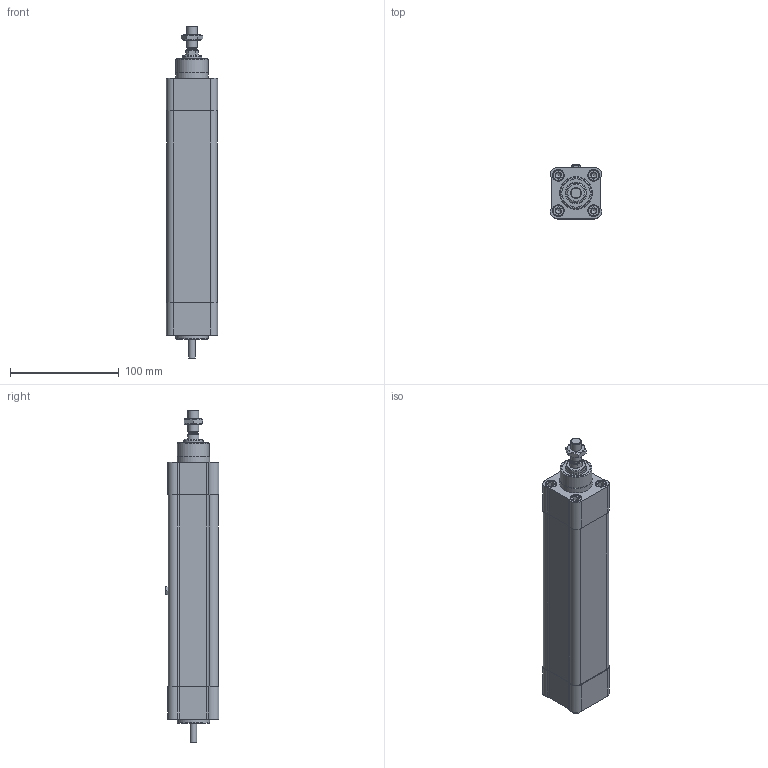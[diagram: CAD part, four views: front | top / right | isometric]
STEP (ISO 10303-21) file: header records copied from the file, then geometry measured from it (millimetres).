
FILE_DESCRIPTION(/* description */ ('STEP AP214'),/* implementation_level */ '2;1');
FILE_NAME(/* name */ 'PNCE 32 BS 1205 100 S(0)',/* time_stamp */ '2026-09-04T14:27:56+02:00',/* author */ ('License CC BY-ND 4.0'),/* organization */ ('CADENAS'),/* preprocessor_version */ 'ST-DEVELOPER v20',/* originating_system */ 'PARTsolutions',/* authorisation */ ' ');
FILE_SCHEMA (('AUTOMOTIVE_DESIGN {1 0 10303 214 3 1 1}'));
Length unit declared in the file: millimetre
Products named in the file (6): PNCE 32 BS 1205 100 S(0); PNCE 32_drive cap; PNCE 32 100 S(0)_cylinder profil; PNCE 32_front cap; PNCE 32 100 S 0_piston rod; PNCE 32_nut
Assembly tree (5 placements, depth 2):
  PNCE 32 BS 1205 100 S(0)
    PNCE 32_drive cap
    PNCE 32 100 S(0)_cylinder profil
    PNCE 32_front cap
    PNCE 32 100 S 0_piston rod
    PNCE 32_nut
Bounding box: 46.97 x 49.5 x 305 mm (x, y, z)
Volume: 431034.5 mm3; surface area: 118682 mm2
Topology: 5 solids, 5 shells, 271 faces, 583 edges, 379 vertices
Faces by surface type: plane 143, cylinder 88, cone 37, torus 2, sphere 1
Full cylindrical faces by diameter (mm): 4.917 x8, 5 x4, 5.3 x1, 6 x9, 6.7 x4, 8 x1, 8.376 x1, 8.4 x1, 8.566 x1, 10 x9, 11 x8, 17.8 x1, 18 x2, 19 x1, 20 x1, 22 x1, 26 x1, 29.5 x1, 30 x3, 31.5 x1, 32.5 x3
Entity records: 8607 total; most frequent: CARTESIAN_POINT 1229, DIRECTION 1202, ORIENTED_EDGE 942, AXIS2_PLACEMENT_3D 482, EDGE_CURVE 471, FACE_BOUND 436, EDGE_LOOP 428, VERTEX_POINT 369
